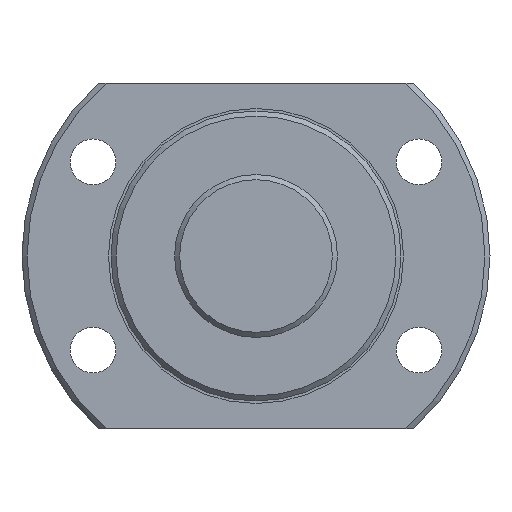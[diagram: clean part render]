
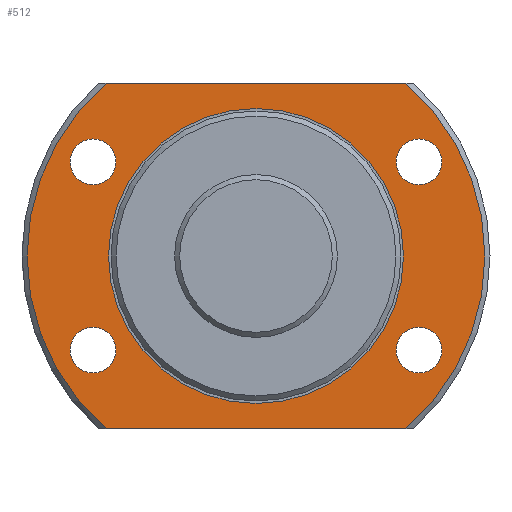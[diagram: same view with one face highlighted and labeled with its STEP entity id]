
A CAD part, left-side view. The second image highlights one B-rep face of the part: STEP entity #512.
In plain terms, the highlighted planar face has unit normal (-1, 0, 0).
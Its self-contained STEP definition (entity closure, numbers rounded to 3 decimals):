
#34=LINE('',#935,#42);
#35=LINE('',#936,#43);
#42=VECTOR('',#745,1000.);
#43=VECTOR('',#746,1000.);
#147=ORIENTED_EDGE('',*,*,#236,.T.);
#148=ORIENTED_EDGE('',*,*,#237,.F.);
#149=ORIENTED_EDGE('',*,*,#209,.F.);
#150=ORIENTED_EDGE('',*,*,#238,.F.);
#151=ORIENTED_EDGE('',*,*,#234,.F.);
#152=ORIENTED_EDGE('',*,*,#239,.T.);
#153=ORIENTED_EDGE('',*,*,#240,.T.);
#154=ORIENTED_EDGE('',*,*,#241,.T.);
#155=ORIENTED_EDGE('',*,*,#242,.T.);
#209=EDGE_CURVE('',#264,#262,#305,.T.);
#234=EDGE_CURVE('',#283,#284,#323,.T.);
#236=EDGE_CURVE('',#285,#285,#324,.T.);
#237=EDGE_CURVE('',#262,#283,#34,.T.);
#238=EDGE_CURVE('',#284,#264,#35,.T.);
#239=EDGE_CURVE('',#286,#286,#325,.T.);
#240=EDGE_CURVE('',#287,#287,#326,.T.);
#241=EDGE_CURVE('',#288,#288,#327,.T.);
#242=EDGE_CURVE('',#289,#289,#328,.T.);
#262=VERTEX_POINT('',#850);
#264=VERTEX_POINT('',#857);
#283=VERTEX_POINT('',#925);
#284=VERTEX_POINT('',#927);
#285=VERTEX_POINT('',#934);
#286=VERTEX_POINT('',#938);
#287=VERTEX_POINT('',#940);
#288=VERTEX_POINT('',#942);
#289=VERTEX_POINT('',#944);
#305=CIRCLE('',#570,45.);
#323=CIRCLE('',#603,45.);
#324=CIRCLE('',#605,29.);
#325=CIRCLE('',#606,4.5);
#326=CIRCLE('',#607,4.5);
#327=CIRCLE('',#608,4.5);
#328=CIRCLE('',#609,4.5);
#377=EDGE_LOOP('',(#147));
#378=EDGE_LOOP('',(#148,#149,#150,#151));
#379=EDGE_LOOP('',(#152));
#380=EDGE_LOOP('',(#153));
#381=EDGE_LOOP('',(#154));
#382=EDGE_LOOP('',(#155));
#449=FACE_BOUND('',#377,.T.);
#450=FACE_BOUND('',#378,.T.);
#451=FACE_BOUND('',#379,.T.);
#452=FACE_BOUND('',#380,.T.);
#453=FACE_BOUND('',#381,.T.);
#454=FACE_BOUND('',#382,.T.);
#485=PLANE('',#604);
#512=ADVANCED_FACE('',(#449,#450,#451,#452,#453,#454),#485,.T.);
#570=AXIS2_PLACEMENT_3D('',#858,#669,#670);
#603=AXIS2_PLACEMENT_3D('',#926,#739,#740);
#604=AXIS2_PLACEMENT_3D('',#932,#741,#742);
#605=AXIS2_PLACEMENT_3D('',#933,#743,#744);
#606=AXIS2_PLACEMENT_3D('',#937,#747,#748);
#607=AXIS2_PLACEMENT_3D('',#939,#749,#750);
#608=AXIS2_PLACEMENT_3D('',#941,#751,#752);
#609=AXIS2_PLACEMENT_3D('',#943,#753,#754);
#669=DIRECTION('',(1.,0.,0.));
#670=DIRECTION('',(0.,0.,-1.));
#739=DIRECTION('',(1.,0.,0.));
#740=DIRECTION('',(0.,0.,-1.));
#741=DIRECTION('',(-1.,0.,0.));
#742=DIRECTION('',(0.,0.,1.));
#743=DIRECTION('',(1.,0.,0.));
#744=DIRECTION('',(0.,0.,-1.));
#745=DIRECTION('',(0.,1.,0.));
#746=DIRECTION('',(0.,-1.,0.));
#747=DIRECTION('',(1.,0.,0.));
#748=DIRECTION('',(0.,0.,-1.));
#749=DIRECTION('',(1.,0.,0.));
#750=DIRECTION('',(0.,0.,-1.));
#751=DIRECTION('',(1.,0.,0.));
#752=DIRECTION('',(0.,0.,-1.));
#753=DIRECTION('',(1.,0.,0.));
#754=DIRECTION('',(0.,0.,-1.));
#850=CARTESIAN_POINT('',(9.,-29.479,-34.));
#857=CARTESIAN_POINT('',(9.,-29.479,34.));
#858=CARTESIAN_POINT('',(9.,0.,0.));
#925=CARTESIAN_POINT('',(9.,29.479,-34.));
#926=CARTESIAN_POINT('',(9.,0.,0.));
#927=CARTESIAN_POINT('',(9.,29.479,34.));
#932=CARTESIAN_POINT('',(9.,45.,0.));
#933=CARTESIAN_POINT('',(9.,0.,0.));
#934=CARTESIAN_POINT('',(9.,0.,-29.));
#935=CARTESIAN_POINT('',(9.,45.,-34.));
#936=CARTESIAN_POINT('',(9.,45.,34.));
#937=CARTESIAN_POINT('',(9.,-32.043,18.5));
#938=CARTESIAN_POINT('',(9.,-32.043,14.));
#939=CARTESIAN_POINT('',(9.,-32.043,-18.5));
#940=CARTESIAN_POINT('',(9.,-32.043,-23.));
#941=CARTESIAN_POINT('',(9.,32.043,-18.5));
#942=CARTESIAN_POINT('',(9.,32.043,-23.));
#943=CARTESIAN_POINT('',(9.,32.043,18.5));
#944=CARTESIAN_POINT('',(9.,32.043,14.));
